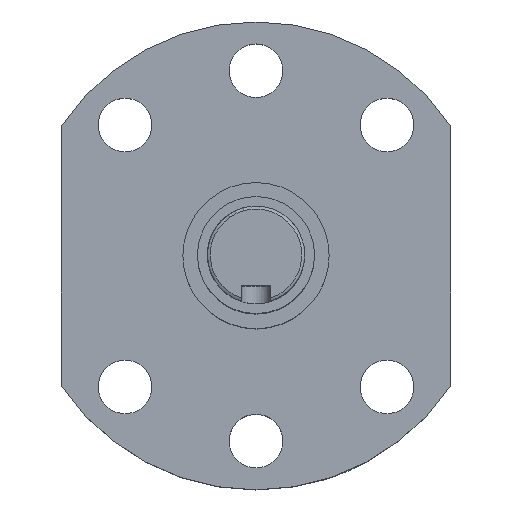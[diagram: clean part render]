
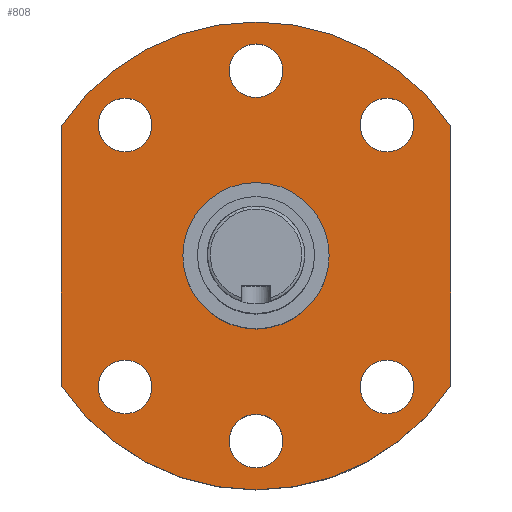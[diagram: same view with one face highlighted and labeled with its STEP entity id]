
A CAD part, top view. The second image highlights one B-rep face of the part: STEP entity #808.
In plain terms, the highlighted planar face has unit normal (0, 0, 1).
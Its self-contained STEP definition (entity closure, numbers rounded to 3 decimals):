
#74=CIRCLE('',#873,24.);
#84=CIRCLE('',#885,2.75);
#85=CIRCLE('',#886,2.75);
#86=CIRCLE('',#887,2.75);
#87=CIRCLE('',#888,2.75);
#88=CIRCLE('',#889,2.75);
#89=CIRCLE('',#890,2.75);
#90=CIRCLE('',#891,24.);
#91=CIRCLE('',#892,7.5);
#168=ORIENTED_EDGE('',*,*,#257,.T.);
#169=ORIENTED_EDGE('',*,*,#258,.T.);
#170=ORIENTED_EDGE('',*,*,#259,.T.);
#171=ORIENTED_EDGE('',*,*,#260,.T.);
#172=ORIENTED_EDGE('',*,*,#261,.T.);
#173=ORIENTED_EDGE('',*,*,#262,.T.);
#174=ORIENTED_EDGE('',*,*,#263,.F.);
#175=ORIENTED_EDGE('',*,*,#264,.T.);
#176=ORIENTED_EDGE('',*,*,#265,.T.);
#177=ORIENTED_EDGE('',*,*,#244,.T.);
#178=ORIENTED_EDGE('',*,*,#266,.F.);
#244=EDGE_CURVE('',#299,#297,#74,.T.);
#257=EDGE_CURVE('',#310,#310,#84,.T.);
#258=EDGE_CURVE('',#311,#311,#85,.T.);
#259=EDGE_CURVE('',#312,#312,#86,.T.);
#260=EDGE_CURVE('',#313,#313,#87,.T.);
#261=EDGE_CURVE('',#314,#314,#88,.T.);
#262=EDGE_CURVE('',#315,#315,#89,.T.);
#263=EDGE_CURVE('',#316,#297,#334,.T.);
#264=EDGE_CURVE('',#316,#317,#90,.T.);
#265=EDGE_CURVE('',#317,#299,#335,.T.);
#266=EDGE_CURVE('',#318,#318,#91,.T.);
#297=VERTEX_POINT('',#1194);
#299=VERTEX_POINT('',#1197);
#310=VERTEX_POINT('',#1223);
#311=VERTEX_POINT('',#1225);
#312=VERTEX_POINT('',#1227);
#313=VERTEX_POINT('',#1229);
#314=VERTEX_POINT('',#1231);
#315=VERTEX_POINT('',#1233);
#316=VERTEX_POINT('',#1235);
#317=VERTEX_POINT('',#1237);
#318=VERTEX_POINT('',#1240);
#334=LINE('',#1234,#351);
#335=LINE('',#1238,#352);
#351=VECTOR('',#1040,1000.);
#352=VECTOR('',#1043,1000.);
#400=EDGE_LOOP('',(#168));
#401=EDGE_LOOP('',(#169));
#402=EDGE_LOOP('',(#170));
#403=EDGE_LOOP('',(#171));
#404=EDGE_LOOP('',(#172));
#405=EDGE_LOOP('',(#173));
#406=EDGE_LOOP('',(#174,#175,#176,#177));
#407=EDGE_LOOP('',(#178));
#477=FACE_BOUND('',#400,.T.);
#478=FACE_BOUND('',#401,.T.);
#479=FACE_BOUND('',#402,.T.);
#480=FACE_BOUND('',#403,.T.);
#481=FACE_BOUND('',#404,.T.);
#482=FACE_BOUND('',#405,.T.);
#483=FACE_BOUND('',#406,.T.);
#484=FACE_BOUND('',#407,.T.);
#520=PLANE('',#884);
#808=ADVANCED_FACE('',(#477,#478,#479,#480,#481,#482,#483,#484),#520,.T.);
#873=AXIS2_PLACEMENT_3D('',#1196,#1001,#1002);
#884=AXIS2_PLACEMENT_3D('',#1221,#1026,#1027);
#885=AXIS2_PLACEMENT_3D('',#1222,#1028,#1029);
#886=AXIS2_PLACEMENT_3D('',#1224,#1030,#1031);
#887=AXIS2_PLACEMENT_3D('',#1226,#1032,#1033);
#888=AXIS2_PLACEMENT_3D('',#1228,#1034,#1035);
#889=AXIS2_PLACEMENT_3D('',#1230,#1036,#1037);
#890=AXIS2_PLACEMENT_3D('',#1232,#1038,#1039);
#891=AXIS2_PLACEMENT_3D('',#1236,#1041,#1042);
#892=AXIS2_PLACEMENT_3D('',#1239,#1044,#1045);
#1001=DIRECTION('',(0.,0.,1.));
#1002=DIRECTION('',(1.,0.,0.));
#1026=DIRECTION('',(0.,0.,1.));
#1027=DIRECTION('',(1.,0.,0.));
#1028=DIRECTION('',(0.,0.,-1.));
#1029=DIRECTION('',(1.,0.,0.));
#1030=DIRECTION('',(0.,0.,-1.));
#1031=DIRECTION('',(1.,0.,0.));
#1032=DIRECTION('',(0.,0.,-1.));
#1033=DIRECTION('',(1.,0.,0.));
#1034=DIRECTION('',(0.,0.,-1.));
#1035=DIRECTION('',(1.,0.,0.));
#1036=DIRECTION('',(0.,0.,-1.));
#1037=DIRECTION('',(1.,0.,0.));
#1038=DIRECTION('',(0.,0.,-1.));
#1039=DIRECTION('',(1.,0.,0.));
#1040=DIRECTION('',(0.,-1.,0.));
#1041=DIRECTION('',(0.,0.,1.));
#1042=DIRECTION('',(1.,0.,0.));
#1043=DIRECTION('',(0.,-1.,0.));
#1044=DIRECTION('',(0.,0.,1.));
#1045=DIRECTION('',(1.,0.,0.));
#1194=CARTESIAN_POINT('',(20.,-13.266,0.));
#1196=CARTESIAN_POINT('',(0.,0.,0.));
#1197=CARTESIAN_POINT('',(-20.,-13.266,0.));
#1221=CARTESIAN_POINT('',(7.5,0.,0.));
#1222=CARTESIAN_POINT('',(-13.435,13.435,0.));
#1223=CARTESIAN_POINT('',(-10.685,13.435,0.));
#1224=CARTESIAN_POINT('',(0.,19.,0.));
#1225=CARTESIAN_POINT('',(2.75,19.,0.));
#1226=CARTESIAN_POINT('',(13.435,13.435,0.));
#1227=CARTESIAN_POINT('',(16.185,13.435,0.));
#1228=CARTESIAN_POINT('',(13.435,-13.435,0.));
#1229=CARTESIAN_POINT('',(16.185,-13.435,0.));
#1230=CARTESIAN_POINT('',(0.,-19.,0.));
#1231=CARTESIAN_POINT('',(2.75,-19.,0.));
#1232=CARTESIAN_POINT('',(-13.435,-13.435,0.));
#1233=CARTESIAN_POINT('',(-10.685,-13.435,0.));
#1234=CARTESIAN_POINT('',(20.,30.,0.));
#1235=CARTESIAN_POINT('',(20.,13.266,0.));
#1236=CARTESIAN_POINT('',(0.,0.,0.));
#1237=CARTESIAN_POINT('',(-20.,13.266,0.));
#1238=CARTESIAN_POINT('',(-20.,30.,0.));
#1239=CARTESIAN_POINT('',(0.,0.,0.));
#1240=CARTESIAN_POINT('',(7.5,0.,0.));
